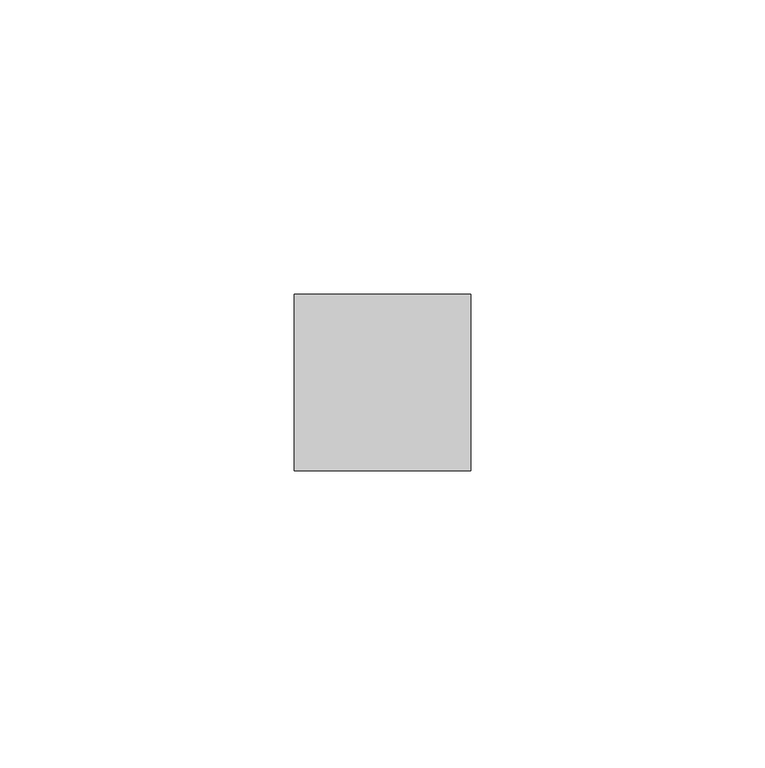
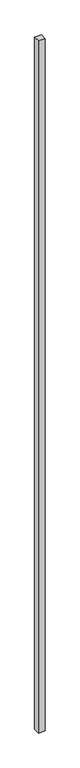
"""IFC4 building model written with IfcOpenShell, lengths in millimetres: member geometry, 矩形竖梃 : 30mm 正方形."""

from ifc_helpers import new_model, si_unit, frame, origin, place, context, project, spatial, polyline, outline, extrude, source, transform, mapped, element, save


def member_484f0d65(model_context):
    return source(origin(), model_context, "Body", "SweptSolid", [
        extrude(outline(polyline([(0.0, 15.0), (0.0, -15.0), (-30.0, -15.0), (-30.0, 15.0), (0.0, 15.0)])), frame((0.0, 0.0, -3270.0), z_axis=(0.0, 0.0, 1.0), x_axis=(1.0, 0.0, 0.0)), (0.0, 0.0, 1.0), 3270.0),
    ])


if __name__ == "__main__":
    model = new_model("IFC4")
    model_context = context("Model", 3, world=origin())
    ifc_project = project(units=[si_unit("LENGTHUNIT", "METRE", prefix="MILLI")], contexts=[model_context])
    site = spatial("IfcSite", under=ifc_project)
    building = spatial("IfcBuilding", under=site)
    placement = place(None, origin())
    member_shape = member_484f0d65(model_context)
    element("IfcMember", 1, ObjectType="矩形竖梃 : 30mm 正方形", at=placement, inside=building, context=model_context, shape_type="MappedRepresentation", body=[
        mapped(member_shape, transform((0.0, 0.0, 0.0), x_axis=(1.0, 0.0, 0.0), y_axis=(0.0, 1.0, 0.0), z_axis=(0.0, 0.0, 1.0))),
    ])
    save(model, "model.ifc")
